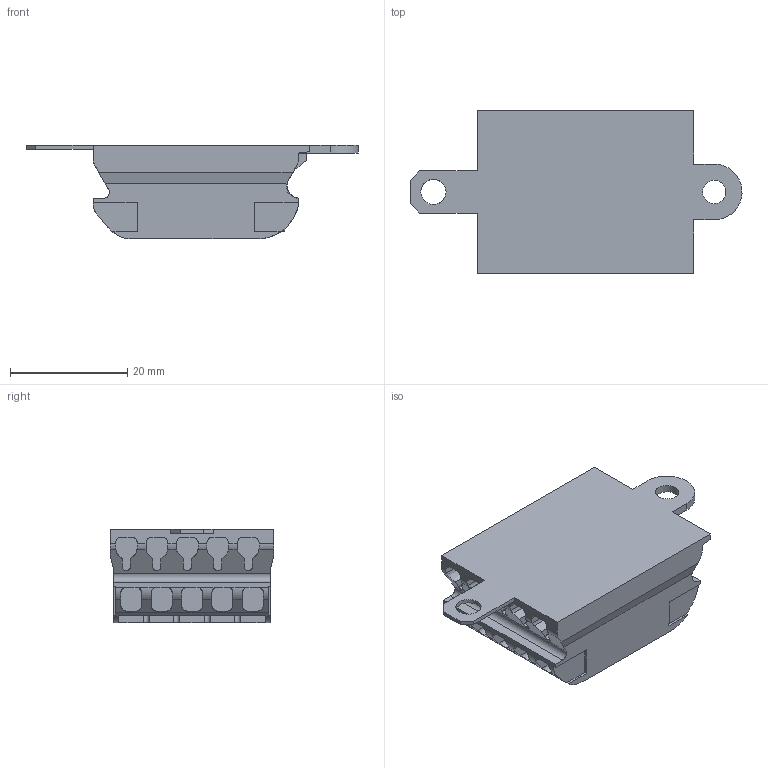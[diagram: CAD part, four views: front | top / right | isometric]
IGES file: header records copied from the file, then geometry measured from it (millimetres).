
Start section: C
Global section: file name: 024-30L-02.igs; native system: By Siemens PLM Incorporated; preprocessor: XPlus GENERIC/IGES 23.0.61; author: Author; organization: Title; date: 20240404.142138; units: millimetre
Bounding box: 56.7 x 27.9 x 16 mm (x, y, z)
Volume: 11850.6 mm3; surface area: 6819.2 mm2
Topology: 1 solids, 1 shells, 422 faces, 1220 edges, 811 vertices
Faces by surface type: bspline 422
